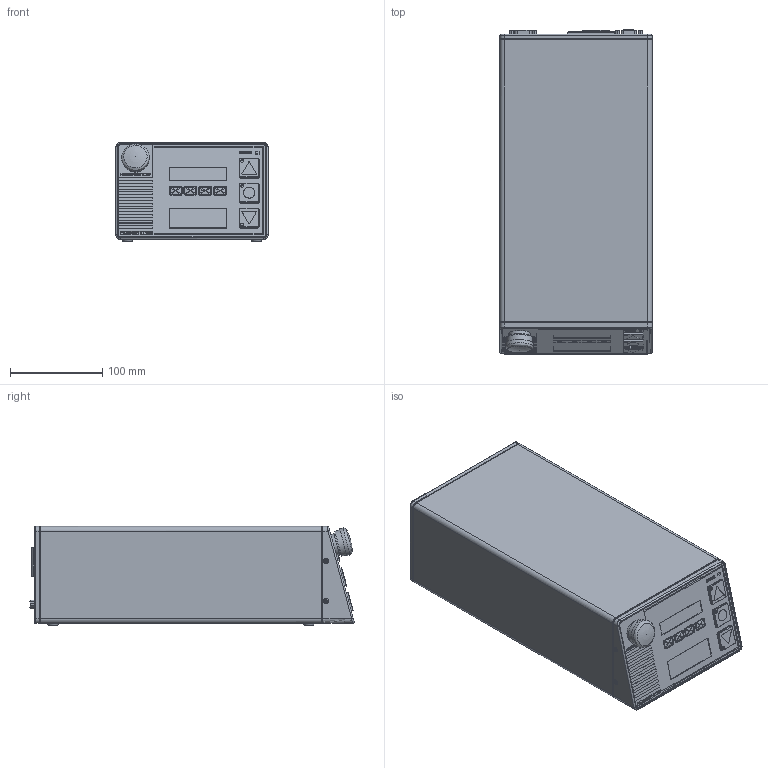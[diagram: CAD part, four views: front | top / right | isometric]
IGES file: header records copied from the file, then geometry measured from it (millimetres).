
Global section: file name: DC4040; native system: Autodesk RealDWG; preprocessor: Autodesk Translation Framework DWG producer (atf_dwg_producer); organization: unknown; date: 20200506.115652; units: inch
Bounding box: 165 x 350.77 x 107.29 mm (x, y, z)
Volume: 5753457.5 mm3; surface area: 228608.8 mm2
Topology: 5 solids, 6 shells, 2019 faces, 5249 edges, 3400 vertices
Faces by surface type: bspline 2019
